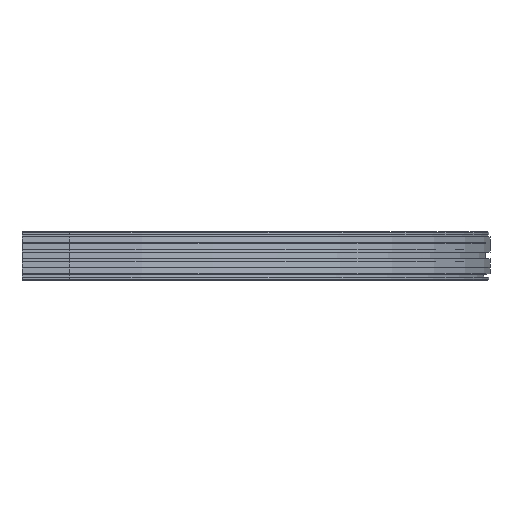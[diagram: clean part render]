
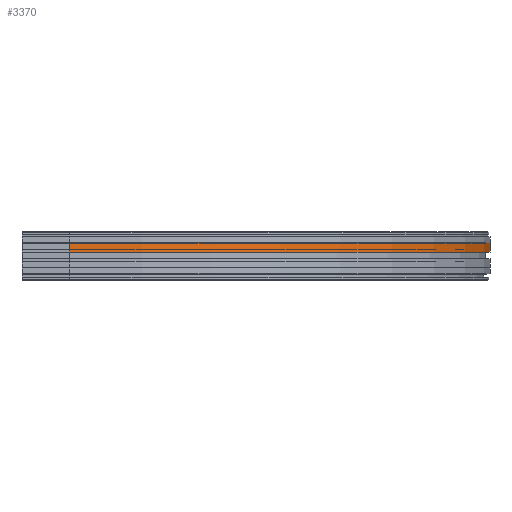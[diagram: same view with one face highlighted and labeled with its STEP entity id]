
A CAD part, front view. The second image highlights one B-rep face of the part: STEP entity #3370.
In plain terms, the highlighted cylindrical face has radius 712 mm (diameter 1424 mm), a partial arc.
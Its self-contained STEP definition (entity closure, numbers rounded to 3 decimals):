
#2026=CARTESIAN_POINT('',(80.,-1312.0,-19.));
#2027=VERTEX_POINT('',#2026);
#2057=CARTESIAN_POINT('',(80.,-1312.0,-34.));
#2058=VERTEX_POINT('',#2057);
#2065=CARTESIAN_POINT('',(80.,-1312.0,-19.));
#2066=DIRECTION('',(0.0,0.0,-1.0));
#2067=VECTOR('',#2066,15.);
#2068=LINE('',#2065,#2067);
#2069=EDGE_CURVE('',#2027,#2058,#2068,.T.);
#3327=CARTESIAN_POINT('',(80.0,112.0,-19.));
#3328=VERTEX_POINT('',#3327);
#3329=CARTESIAN_POINT('',(80.0,-600.0,-19.));
#3330=DIRECTION('',(0.0,0.0,-1.0));
#3331=DIRECTION('',(0.0,1.0,0.0));
#3332=AXIS2_PLACEMENT_3D('',#3329,#3330,#3331);
#3333=CIRCLE('',#3332,712.0);
#3334=EDGE_CURVE('',#3328,#2027,#3333,.T.);
#3346=CARTESIAN_POINT('',(80.0,-600.0,-26.5));
#3347=DIRECTION('',(0.0,0.,-1.0));
#3348=DIRECTION('',(0.0,1.0,0.0));
#3349=AXIS2_PLACEMENT_3D('',#3346,#3347,#3348);
#3350=CYLINDRICAL_SURFACE('',#3349,712.0);
#3351=ORIENTED_EDGE('',*,*,#2069,.T.);
#3352=CARTESIAN_POINT('',(80.0,112.0,-34.));
#3353=VERTEX_POINT('',#3352);
#3354=CARTESIAN_POINT('',(80.0,-600.0,-34.));
#3355=DIRECTION('',(0.0,0.0,-1.0));
#3356=DIRECTION('',(0.0,1.0,0.0));
#3357=AXIS2_PLACEMENT_3D('',#3354,#3355,#3356);
#3358=CIRCLE('',#3357,712.0);
#3359=EDGE_CURVE('',#3353,#2058,#3358,.T.);
#3360=ORIENTED_EDGE('',*,*,#3359,.F.);
#3361=CARTESIAN_POINT('',(80.0,112.0,-19.));
#3362=DIRECTION('',(0.0,0.0,-1.0));
#3363=VECTOR('',#3362,15.);
#3364=LINE('',#3361,#3363);
#3365=EDGE_CURVE('',#3328,#3353,#3364,.T.);
#3366=ORIENTED_EDGE('',*,*,#3365,.F.);
#3367=ORIENTED_EDGE('',*,*,#3334,.T.);
#3368=EDGE_LOOP('',(#3351,#3360,#3366,#3367));
#3369=FACE_OUTER_BOUND('',#3368,.T.);
#3370=ADVANCED_FACE('',(#3369),#3350,.T.);
